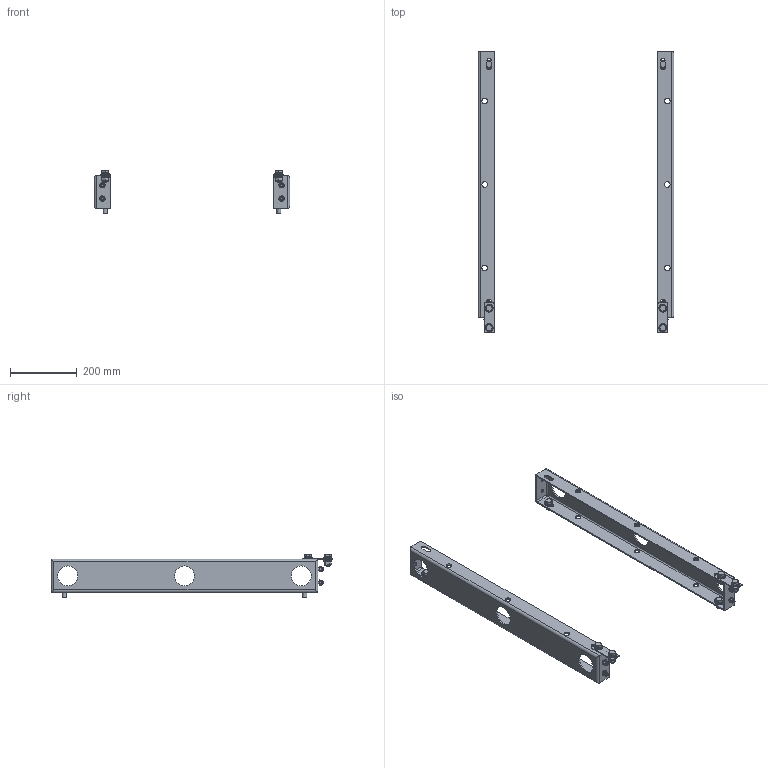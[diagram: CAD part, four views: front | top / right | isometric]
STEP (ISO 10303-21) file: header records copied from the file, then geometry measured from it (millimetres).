
FILE_DESCRIPTION(('STEP AP203'), '1');
FILE_NAME('3960 Êîìïëåêò äëÿ òðàíñïîðòèðîâêè', '', ('UNSPECIFIED'), ('UNSPECIFIED'), 'C3D Converter', 'C3D Toolkit', '');
FILE_SCHEMA(('CONFIG_CONTROL_DESIGN'));
Length unit declared in the file: millimetre
Products named in the file (12): 3960 СБ; 3961; 3962
Assembly tree (56 placements, depth 2):
  3960 СБ
    3961  x2
    3962  x2
    (unnamed)  x12
    (unnamed)  x8
    (unnamed)  x4
    (unnamed)  x4
    (unnamed)  x4
    (unnamed)  x8
    (unnamed)  x4
    (unnamed)  x4
    (unnamed)  x4
Bounding box: 587 x 845 x 131.5 mm (x, y, z)
Volume: 1258529.8 mm3; surface area: 667310.6 mm2
Topology: 56 solids, 56 shells, 548 faces, 1274 edges, 864 vertices
Faces by surface type: plane 310, cylinder 162, cone 56, torus 12, sphere 8
Full cylindrical faces by diameter (mm): 6.647 x4, 8 x4, 9 x8, 10 x8, 10.106 x4, 12 x8, 13.5 x12, 14 x4, 16 x8, 17 x12, 24 x12, 60 x6
Entity records: 10243 total; most frequent: CARTESIAN_POINT 4868, DIRECTION 826, ORIENTED_EDGE 614, AXIS2_PLACEMENT_3D 343, EDGE_CURVE 307, EDGE_LOOP 244, VERTEX_POINT 221, FACE_BOUND 169
